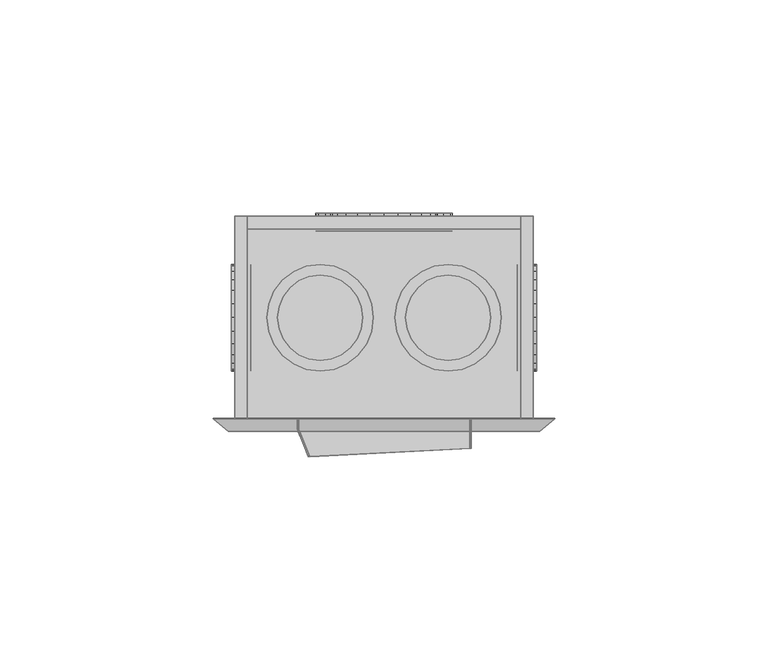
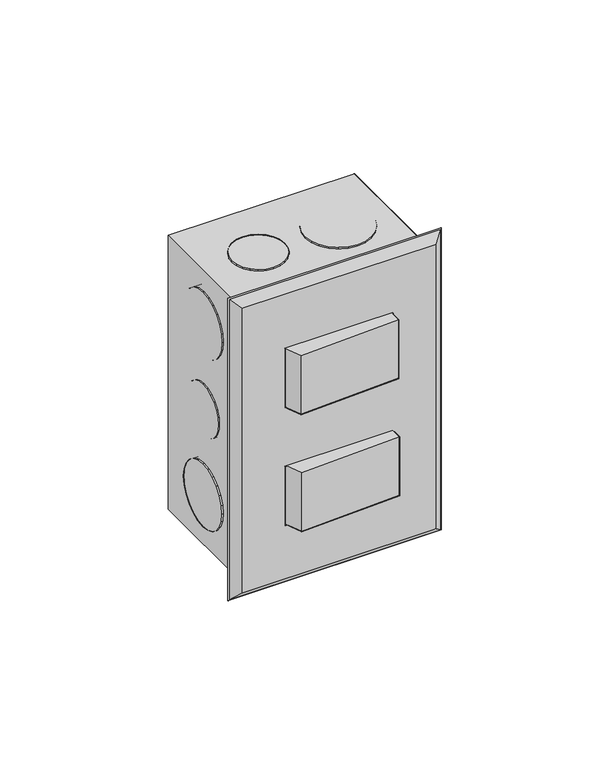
"""IFC4 building model written with IfcOpenShell, lengths in millimetres: proxy geometry,  210223 :  210223."""

from ifc_helpers import new_model, si_unit, origin, place, context, project, spatial, triangles, source, transform, mapped, element, save


def generic_models_682cc3b0(model_context):
    return source(origin(), model_context, "Body", "Tessellation", [
        triangles([(5506.4801697, 13148.2997681, 1254.3000378), (5503.4797714, 13148.2997681, 1148.7000154), (5506.4801697, 13148.2997681, 1145.6999805), (5503.4797714, 13148.2997681, 1251.2999302), (5436.4797913, 13148.2997681, 1254.3000378), (5439.4801895, 13148.2997681, 1251.2999302), (5436.4797913, 13148.2997681, 1145.6999805), (5439.4801895, 13148.2997681, 1148.7000154), (5503.4797714, 13195.8003571, 1251.2999302), (5503.4797714, 13195.8003571, 1148.7000154), (5436.4797913, 13195.8003571, 1254.3000378), (5436.4797913, 13195.8003571, 1145.6999805), (5439.4801895, 13195.8003571, 1251.2999302), (5506.4801697, 13195.8003571, 1145.6999805), (5439.4801895, 13195.8003571, 1148.7000154), (5506.4801697, 13195.8003571, 1254.3000378), (5503.4797714, 13192.8005402, 1251.2999302), (5439.4801895, 13192.8005402, 1148.7000154), (5503.4797714, 13192.8005402, 1148.7000154), (5439.4801895, 13192.8005402, 1251.2999302), (5479.4800735, 13196.5003143, 1186.0999855), (5485.3797134, 13196.5003143, 1191.9999887), (5482.7798721, 13196.5003143, 1188.6999722), (5475.6797241, 13196.5003143, 1184.5000105), (5486.9801971, 13196.5003143, 1195.8999687), (5471.4799805, 13196.5003143, 1183.9999683), (5487.4801666, 13196.5003143, 1200.0000092), (5467.3802307, 13196.5003143, 1184.5000105), (5486.9801971, 13196.5003143, 1204.0999769), (5463.4798874, 13196.5003143, 1186.0999855), (5485.3797134, 13196.5003143, 1208.0000296), (5460.1800888, 13196.5003143, 1188.6999722), (5482.7798721, 13196.5003143, 1211.2999735), (5457.6802414, 13196.5003143, 1191.9999887), (5479.4800735, 13196.5003143, 1213.9000328), (5456.0797577, 13196.5003143, 1195.8999687), (5475.6797241, 13196.5003143, 1215.5000078), (5455.4797943, 13196.5003143, 1200.0000092), (5471.4799805, 13196.5003143, 1215.9999773), (5456.0797577, 13196.5003143, 1204.0999769), (5467.3802307, 13196.5003143, 1215.5000078), (5457.6802414, 13196.5003143, 1208.0000296), (5463.4798874, 13196.5003143, 1213.9000328), (5460.1800888, 13196.5003143, 1211.2999735), (5475.6797241, 13192.3005707, 1215.5000078), (5471.4799805, 13192.3005707, 1215.9999773), (5479.4800735, 13192.3005707, 1213.9000328), (5482.7798721, 13192.3005707, 1211.2999735), (5485.3797134, 13192.3005707, 1208.0000296), (5486.9801971, 13192.3005707, 1204.0999769), (5487.4801666, 13192.3005707, 1200.0000092), (5486.9801971, 13192.3005707, 1195.8999687), (5485.3797134, 13192.3005707, 1191.9999887), (5482.7798721, 13192.3005707, 1188.6999722), (5479.4800735, 13192.3005707, 1186.0999855), (5475.6797241, 13192.3005707, 1184.5000105), (5471.4799805, 13192.3005707, 1183.9999683), (5467.3802307, 13192.3005707, 1184.5000105), (5463.4798874, 13192.3005707, 1186.0999855), (5460.1800888, 13192.3005707, 1188.6999722), (5457.6802414, 13192.3005707, 1191.9999887), (5456.0797577, 13192.3005707, 1195.8999687), (5455.4797943, 13192.3005707, 1200.0000092), (5456.0797577, 13192.3005707, 1204.0999769), (5457.6802414, 13192.3005707, 1208.0000296), (5460.1800888, 13192.3005707, 1211.2999735), (5463.4798874, 13192.3005707, 1213.9000328), (5467.3802307, 13192.3005707, 1215.5000078), (5482.3798965, 13192.3005707, 1227.8000565), (5477.7801773, 13192.3005707, 1223.2000465), (5480.3800186, 13192.3005707, 1225.2000698), (5483.5798233, 13192.3005707, 1230.8000187), (5474.7797791, 13192.3005707, 1221.8999805), (5483.9797989, 13192.3005707, 1233.9999687), (5471.4799805, 13192.3005707, 1221.500005), (5483.5798233, 13192.3005707, 1237.2000641), (5468.2801758, 13192.3005707, 1221.8999805), (5482.3798965, 13192.3005707, 1240.3000202), (5465.2797775, 13192.3005707, 1223.2000465), (5480.3800186, 13192.3005707, 1242.800013), (5462.6799362, 13192.3005707, 1225.2000698), (5460.6800583, 13192.3005707, 1227.8000565), (5477.7801773, 13192.3005707, 1244.8000362), (5474.7797791, 13192.3005707, 1246.0999569), (5459.4801315, 13192.3005707, 1230.8000187), (5471.4799805, 13192.3005707, 1246.4999325), (5458.980162, 13192.3005707, 1233.9999687), (5468.2801758, 13192.3005707, 1246.0999569), (5459.4801315, 13192.3005707, 1237.2000641), (5460.6800583, 13192.3005707, 1240.3000202), (5465.2797775, 13192.3005707, 1244.8000362), (5462.6799362, 13192.3005707, 1242.800013), (5459.4801315, 13196.5003143, 1230.8000187), (5460.6800583, 13196.5003143, 1227.8000565), (5462.6799362, 13196.5003143, 1225.2000698), (5465.2797775, 13196.5003143, 1223.2000465), (5468.2801758, 13196.5003143, 1221.8999805), (5471.4799805, 13196.5003143, 1221.500005), (5474.7797791, 13196.5003143, 1221.8999805), (5477.7801773, 13196.5003143, 1223.2000465), (5480.3800186, 13196.5003143, 1225.2000698), (5482.3798965, 13196.5003143, 1227.8000565), (5483.5798233, 13196.5003143, 1230.8000187), (5483.9797989, 13196.5003143, 1233.9999687), (5483.5798233, 13196.5003143, 1237.2000641), (5482.3798965, 13196.5003143, 1240.3000202), (5480.3800186, 13196.5003143, 1242.800013), (5477.7801773, 13196.5003143, 1244.8000362), (5474.7797791, 13196.5003143, 1246.0999569), (5471.4799805, 13196.5003143, 1246.4999325), (5468.2801758, 13196.5003143, 1246.0999569), (5465.2797775, 13196.5003143, 1244.8000362), (5462.6799362, 13196.5003143, 1242.800013), (5460.6800583, 13196.5003143, 1240.3000202), (5459.4801315, 13196.5003143, 1237.2000641), (5458.980162, 13196.5003143, 1233.9999687), (5477.7801773, 13196.5003143, 1155.1999821), (5482.3798965, 13196.5003143, 1159.6999981), (5480.3800186, 13196.5003143, 1157.2000053), (5474.7797791, 13196.5003143, 1153.8999887), (5483.5798233, 13196.5003143, 1162.8000269), (5471.4799805, 13196.5003143, 1153.5000132), (5483.9797989, 13196.5003143, 1165.9999769), (5468.2801758, 13196.5003143, 1153.8999887), (5483.5798233, 13196.5003143, 1169.1999996), (5465.2797775, 13196.5003143, 1155.1999821), (5482.3798965, 13196.5003143, 1172.2000345), (5462.6799362, 13196.5003143, 1157.2000053), (5480.3800186, 13196.5003143, 1174.8000212), (5460.6800583, 13196.5003143, 1159.6999981), (5477.7801773, 13196.5003143, 1176.7999718), (5459.4801315, 13196.5003143, 1162.8000269), (5474.7797791, 13196.5003143, 1178.0999651), (5471.4799805, 13196.5003143, 1178.5000134), (5458.980162, 13196.5003143, 1165.9999769), (5459.4801315, 13196.5003143, 1169.1999996), (5468.2801758, 13196.5003143, 1178.0999651), (5460.6800583, 13196.5003143, 1172.2000345), (5465.2797775, 13196.5003143, 1176.7999718), (5462.6799362, 13196.5003143, 1174.8000212), (5474.7797791, 13192.3005707, 1178.0999651), (5471.4799805, 13192.3005707, 1178.5000134), (5477.7801773, 13192.3005707, 1176.7999718), (5480.3800186, 13192.3005707, 1174.8000212), (5482.3798965, 13192.3005707, 1172.2000345), (5483.5798233, 13192.3005707, 1169.1999996), (5483.9797989, 13192.3005707, 1165.9999769), (5483.5798233, 13192.3005707, 1162.8000269), (5482.3798965, 13192.3005707, 1159.6999981), (5480.3800186, 13192.3005707, 1157.2000053), (5477.7801773, 13192.3005707, 1155.1999821), (5474.7797791, 13192.3005707, 1153.8999887), (5471.4799805, 13192.3005707, 1153.5000132), (5468.2801758, 13192.3005707, 1153.8999887), (5465.2797775, 13192.3005707, 1155.1999821), (5462.6799362, 13192.3005707, 1157.2000053), (5460.6800583, 13192.3005707, 1159.6999981), (5459.4801315, 13192.3005707, 1162.8000269), (5458.980162, 13192.3005707, 1165.9999769), (5459.4801315, 13192.3005707, 1169.1999996), (5460.6800583, 13192.3005707, 1172.2000345), (5462.6799362, 13192.3005707, 1174.8000212), (5465.2797775, 13192.3005707, 1176.7999718), (5468.2801758, 13192.3005707, 1178.0999651), (5507.2801208, 13180.700116, 1195.0000237), (5507.2801208, 13177.0003418, 1191.3000315), (5507.2801208, 13179.1002136, 1192.9000065), (5507.2801208, 13181.7000549, 1197.4000225), (5507.2801208, 13174.6004883, 1190.3000198), (5507.2801208, 13182.0000366, 1200.0000092), (5507.2801208, 13171.9994843, 1189.9999655), (5507.2801208, 13181.7000549, 1202.5999958), (5507.2801208, 13169.3996429, 1190.3000198), (5507.2801208, 13180.700116, 1204.9999947), (5507.2801208, 13166.9997894, 1191.3000315), (5507.2801208, 13179.1002136, 1207.1000118), (5507.2801208, 13164.8999176, 1192.9000065), (5507.2801208, 13177.0003418, 1208.6999868), (5507.2801208, 13163.3000153, 1195.0000237), (5507.2801208, 13174.6004883, 1209.6999985), (5507.2801208, 13162.3000763, 1197.4000225), (5507.2801208, 13162.0000946, 1200.0000092), (5507.2801208, 13171.9994843, 1209.9999802), (5507.2801208, 13169.3996429, 1209.6999985), (5507.2801208, 13162.3000763, 1202.5999958), (5507.2801208, 13166.9997894, 1208.6999868), (5507.2801208, 13163.3000153, 1204.9999947), (5507.2801208, 13164.8999176, 1207.1000118), (5502.6798203, 13174.6004883, 1209.6999985), (5502.6798203, 13171.9994843, 1209.9999802), (5502.6798203, 13169.3996429, 1209.6999985), (5502.6798203, 13166.9997894, 1208.6999868), (5502.6798203, 13164.8999176, 1207.1000118), (5502.6798203, 13163.3000153, 1204.9999947), (5502.6798203, 13162.3000763, 1202.5999958), (5502.6798203, 13162.0000946, 1200.0000092), (5502.6798203, 13162.3000763, 1197.4000225), (5502.6798203, 13163.3000153, 1195.0000237), (5502.6798203, 13164.8999176, 1192.9000065), (5502.6798203, 13166.9997894, 1191.3000315), (5502.6798203, 13169.3996429, 1190.3000198), (5502.6798203, 13171.9994843, 1189.9999655), (5502.6798203, 13174.6004883, 1190.3000198), (5502.6798203, 13177.0003418, 1191.3000315), (5502.6798203, 13179.1002136, 1192.9000065), (5502.6798203, 13180.700116, 1195.0000237), (5502.6798203, 13181.7000549, 1197.4000225), (5502.6798203, 13182.0000366, 1200.0000092), (5502.6798203, 13181.7000549, 1202.5999958), (5502.6798203, 13180.700116, 1204.9999947), (5502.6798203, 13179.1002136, 1207.1000118), (5502.6798203, 13177.0003418, 1208.6999868), (5502.6798203, 13178.3002625, 1223.2000465), (5502.6798203, 13182.7999878, 1227.8000565), (5502.6798203, 13180.8001099, 1225.2000698), (5502.6798203, 13175.2004517, 1221.8999805), (5502.6798203, 13184.0999084, 1230.8000187), (5502.6798203, 13184.499884, 1233.9999687), (5502.6798203, 13171.9994843, 1221.500005), (5502.6798203, 13168.7996796, 1221.8999805), (5502.6798203, 13184.0999084, 1237.2000641), (5502.6798203, 13182.7999878, 1240.3000202), (5502.6798203, 13165.7998627, 1223.2000465), (5502.6798203, 13163.2000214, 1225.2000698), (5502.6798203, 13180.8001099, 1242.800013), (5502.6798203, 13161.2001434, 1227.8000565), (5502.6798203, 13178.3002625, 1244.8000362), (5502.6798203, 13159.9002228, 1230.8000187), (5502.6798203, 13175.2004517, 1246.0999569), (5502.6798203, 13159.5002472, 1233.9999687), (5502.6798203, 13171.9994843, 1246.4999325), (5502.6798203, 13159.9002228, 1237.2000641), (5502.6798203, 13168.7996796, 1246.0999569), (5502.6798203, 13161.2001434, 1240.3000202), (5502.6798203, 13165.7998627, 1244.8000362), (5502.6798203, 13163.2000214, 1242.800013), (5507.2801208, 13171.9994843, 1221.500005), (5507.2801208, 13175.2004517, 1221.8999805), (5507.2801208, 13168.7996796, 1221.8999805), (5507.2801208, 13165.7998627, 1223.2000465), (5507.2801208, 13163.2000214, 1225.2000698), (5507.2801208, 13161.2001434, 1227.8000565), (5507.2801208, 13159.9002228, 1230.8000187), (5507.2801208, 13159.5002472, 1233.9999687), (5507.2801208, 13159.9002228, 1237.2000641), (5507.2801208, 13161.2001434, 1240.3000202), (5507.2801208, 13163.2000214, 1242.800013), (5507.2801208, 13165.7998627, 1244.8000362), (5507.2801208, 13168.7996796, 1246.0999569), (5507.2801208, 13171.9994843, 1246.4999325), (5507.2801208, 13175.2004517, 1246.0999569), (5507.2801208, 13178.3002625, 1244.8000362), (5507.2801208, 13180.8001099, 1242.800013), (5507.2801208, 13182.7999878, 1240.3000202), (5507.2801208, 13184.0999084, 1237.2000641), (5507.2801208, 13184.499884, 1233.9999687), (5507.2801208, 13184.0999084, 1230.8000187), (5507.2801208, 13182.7999878, 1227.8000565), (5507.2801208, 13180.8001099, 1225.2000698), (5507.2801208, 13178.3002625, 1223.2000465), (5507.2801208, 13182.7999878, 1159.6999981), (5507.2801208, 13178.3002625, 1155.1999821), (5507.2801208, 13180.8001099, 1157.2000053), (5507.2801208, 13184.0999084, 1162.8000269), (5507.2801208, 13175.2004517, 1153.8999887), (5507.2801208, 13184.499884, 1165.9999769), (5507.2801208, 13171.9994843, 1153.5000132), (5507.2801208, 13184.0999084, 1169.1999996), (5507.2801208, 13168.7996796, 1153.8999887), (5507.2801208, 13182.7999878, 1172.2000345), (5507.2801208, 13165.7998627, 1155.1999821), (5507.2801208, 13180.8001099, 1174.8000212), (5507.2801208, 13163.2000214, 1157.2000053), (5507.2801208, 13178.3002625, 1176.7999718), (5507.2801208, 13161.2001434, 1159.6999981), (5507.2801208, 13175.2004517, 1178.0999651), (5507.2801208, 13159.9002228, 1162.8000269), (5507.2801208, 13171.9994843, 1178.5000134), (5507.2801208, 13159.5002472, 1165.9999769), (5507.2801208, 13168.7996796, 1178.0999651), (5507.2801208, 13159.9002228, 1169.1999996), (5507.2801208, 13165.7998627, 1176.7999718), (5507.2801208, 13161.2001434, 1172.2000345), (5507.2801208, 13163.2000214, 1174.8000212), (5502.6798203, 13175.2004517, 1178.0999651), (5502.6798203, 13171.9994843, 1178.5000134), (5502.6798203, 13168.7996796, 1178.0999651), (5502.6798203, 13165.7998627, 1176.7999718), (5502.6798203, 13163.2000214, 1174.8000212), (5502.6798203, 13161.2001434, 1172.2000345), (5502.6798203, 13159.9002228, 1169.1999996), (5502.6798203, 13159.5002472, 1165.9999769), (5502.6798203, 13159.9002228, 1162.8000269), (5502.6798203, 13161.2001434, 1159.6999981), (5502.6798203, 13163.2000214, 1157.2000053), (5502.6798203, 13165.7998627, 1155.1999821), (5502.6798203, 13168.7996796, 1153.8999887), (5502.6798203, 13171.9994843, 1153.5000132), (5502.6798203, 13175.2004517, 1153.8999887), (5502.6798203, 13178.3002625, 1155.1999821), (5502.6798203, 13180.8001099, 1157.2000053), (5502.6798203, 13182.7999878, 1159.6999981), (5502.6798203, 13184.0999084, 1162.8000269), (5502.6798203, 13184.499884, 1165.9999769), (5502.6798203, 13184.0999084, 1169.1999996), (5502.6798203, 13182.7999878, 1172.2000345), (5502.6798203, 13180.8001099, 1174.8000212), (5502.6798203, 13178.3002625, 1176.7999718), (5435.6798401, 13177.0003418, 1191.3000315), (5435.6798401, 13180.700116, 1195.0000237), (5435.6798401, 13179.1002136, 1192.9000065), (5435.6798401, 13181.7000549, 1197.4000225), (5435.6798401, 13174.6004883, 1190.3000198), (5435.6798401, 13182.0000366, 1200.0000092), (5435.6798401, 13171.9994843, 1189.9999655), (5435.6798401, 13169.3996429, 1190.3000198), (5435.6798401, 13181.7000549, 1202.5999958), (5435.6798401, 13180.700116, 1204.9999947), (5435.6798401, 13166.9997894, 1191.3000315), (5435.6798401, 13179.1002136, 1207.1000118), (5435.6798401, 13164.8999176, 1192.9000065), (5435.6798401, 13163.3000153, 1195.0000237), (5435.6798401, 13177.0003418, 1208.6999868), (5435.6798401, 13162.3000763, 1197.4000225), (5435.6798401, 13174.6004883, 1209.6999985), (5435.6798401, 13162.0000946, 1200.0000092), (5435.6798401, 13171.9994843, 1209.9999802), (5435.6798401, 13162.3000763, 1202.5999958), (5435.6798401, 13169.3996429, 1209.6999985), (5435.6798401, 13166.9997894, 1208.6999868), (5435.6798401, 13163.3000153, 1204.9999947), (5435.6798401, 13164.8999176, 1207.1000118), (5440.2801407, 13174.6004883, 1190.3000198), (5440.2801407, 13177.0003418, 1191.3000315), (5440.2801407, 13171.9994843, 1189.9999655), (5440.2801407, 13169.3996429, 1190.3000198), (5440.2801407, 13166.9997894, 1191.3000315), (5440.2801407, 13164.8999176, 1192.9000065), (5440.2801407, 13163.3000153, 1195.0000237), (5440.2801407, 13162.3000763, 1197.4000225), (5440.2801407, 13162.0000946, 1200.0000092), (5440.2801407, 13162.3000763, 1202.5999958), (5440.2801407, 13163.3000153, 1204.9999947), (5440.2801407, 13164.8999176, 1207.1000118), (5440.2801407, 13166.9997894, 1208.6999868), (5440.2801407, 13169.3996429, 1209.6999985), (5440.2801407, 13171.9994843, 1209.9999802), (5440.2801407, 13174.6004883, 1209.6999985), (5440.2801407, 13177.0003418, 1208.6999868), (5440.2801407, 13179.1002136, 1207.1000118), (5440.2801407, 13180.700116, 1204.9999947), (5440.2801407, 13181.7000549, 1202.5999958), (5440.2801407, 13182.0000366, 1200.0000092), (5440.2801407, 13181.7000549, 1197.4000225), (5440.2801407, 13180.700116, 1195.0000237), (5440.2801407, 13179.1002136, 1192.9000065), (5440.2801407, 13182.7999878, 1159.6999981), (5440.2801407, 13178.3002625, 1155.1999821), (5440.2801407, 13180.8001099, 1157.2000053), (5440.2801407, 13184.0999084, 1162.8000269), (5440.2801407, 13175.2004517, 1153.8999887), (5440.2801407, 13184.499884, 1165.9999769), (5440.2801407, 13171.9994843, 1153.5000132), (5440.2801407, 13184.0999084, 1169.1999996), (5440.2801407, 13168.7996796, 1153.8999887), (5440.2801407, 13182.7999878, 1172.2000345), (5440.2801407, 13165.7998627, 1155.1999821), (5440.2801407, 13180.8001099, 1174.8000212), (5440.2801407, 13163.2000214, 1157.2000053), (5440.2801407, 13178.3002625, 1176.7999718), (5440.2801407, 13161.2001434, 1159.6999981), (5440.2801407, 13175.2004517, 1178.0999651), (5440.2801407, 13159.9002228, 1162.8000269), (5440.2801407, 13171.9994843, 1178.5000134), (5440.2801407, 13159.5002472, 1165.9999769), (5440.2801407, 13168.7996796, 1178.0999651), (5440.2801407, 13159.9002228, 1169.1999996), (5440.2801407, 13165.7998627, 1176.7999718), (5440.2801407, 13161.2001434, 1172.2000345), (5440.2801407, 13163.2000214, 1174.8000212), (5435.6798401, 13175.2004517, 1178.0999651), (5435.6798401, 13171.9994843, 1178.5000134), (5435.6798401, 13168.7996796, 1178.0999651), (5435.6798401, 13165.7998627, 1176.7999718), (5435.6798401, 13163.2000214, 1174.8000212), (5435.6798401, 13161.2001434, 1172.2000345), (5435.6798401, 13159.9002228, 1169.1999996), (5435.6798401, 13159.5002472, 1165.9999769), (5435.6798401, 13159.9002228, 1162.8000269), (5435.6798401, 13161.2001434, 1159.6999981), (5435.6798401, 13163.2000214, 1157.2000053), (5435.6798401, 13165.7998627, 1155.1999821), (5435.6798401, 13168.7996796, 1153.8999887), (5435.6798401, 13171.9994843, 1153.5000132), (5435.6798401, 13175.2004517, 1153.8999887), (5435.6798401, 13178.3002625, 1155.1999821), (5435.6798401, 13180.8001099, 1157.2000053), (5435.6798401, 13182.7999878, 1159.6999981), (5435.6798401, 13184.0999084, 1162.8000269), (5435.6798401, 13184.499884, 1165.9999769), (5435.6798401, 13184.0999084, 1169.1999996), (5435.6798401, 13182.7999878, 1172.2000345), (5435.6798401, 13180.8001099, 1174.8000212), (5435.6798401, 13178.3002625, 1176.7999718), (5435.6798401, 13178.3002625, 1223.2000465), (5435.6798401, 13182.7999878, 1227.8000565), (5435.6798401, 13180.8001099, 1225.2000698), (5435.6798401, 13175.2004517, 1221.8999805), (5435.6798401, 13184.0999084, 1230.8000187), (5435.6798401, 13184.499884, 1233.9999687), (5435.6798401, 13171.9994843, 1221.500005), (5435.6798401, 13168.7996796, 1221.8999805), (5435.6798401, 13184.0999084, 1237.2000641), (5435.6798401, 13182.7999878, 1240.3000202), (5435.6798401, 13165.7998627, 1223.2000465), (5435.6798401, 13163.2000214, 1225.2000698), (5435.6798401, 13180.8001099, 1242.800013), (5435.6798401, 13161.2001434, 1227.8000565), (5435.6798401, 13178.3002625, 1244.8000362), (5435.6798401, 13159.9002228, 1230.8000187), (5435.6798401, 13175.2004517, 1246.0999569), (5435.6798401, 13159.5002472, 1233.9999687), (5435.6798401, 13171.9994843, 1246.4999325), (5435.6798401, 13159.9002228, 1237.2000641), (5435.6798401, 13168.7996796, 1246.0999569), (5435.6798401, 13161.2001434, 1240.3000202), (5435.6798401, 13165.7998627, 1244.8000362), (5435.6798401, 13163.2000214, 1242.800013), (5440.2801407, 13171.9994843, 1221.500005), (5440.2801407, 13175.2004517, 1221.8999805), (5440.2801407, 13168.7996796, 1221.8999805), (5440.2801407, 13165.7998627, 1223.2000465), (5440.2801407, 13163.2000214, 1225.2000698), (5440.2801407, 13161.2001434, 1227.8000565), (5440.2801407, 13159.9002228, 1230.8000187), (5440.2801407, 13159.5002472, 1233.9999687), (5440.2801407, 13159.9002228, 1237.2000641), (5440.2801407, 13161.2001434, 1240.3000202), (5440.2801407, 13163.2000214, 1242.800013), (5440.2801407, 13165.7998627, 1244.8000362), (5440.2801407, 13168.7996796, 1246.0999569), (5440.2801407, 13171.9994843, 1246.4999325), (5440.2801407, 13175.2004517, 1246.0999569), (5440.2801407, 13178.3002625, 1244.8000362), (5440.2801407, 13180.8001099, 1242.800013), (5440.2801407, 13182.7999878, 1240.3000202), (5440.2801407, 13184.0999084, 1237.2000641), (5440.2801407, 13184.499884, 1233.9999687), (5440.2801407, 13184.0999084, 1230.8000187), (5440.2801407, 13182.7999878, 1227.8000565), (5440.2801407, 13180.8001099, 1225.2000698), (5440.2801407, 13178.3002625, 1223.2000465), (5492.7798431, 13182.7999878, 1255.1999828), (5497.3801437, 13178.3002625, 1255.1999828), (5495.3802658, 13180.8001099, 1255.1999828), (5498.5800705, 13175.2004517, 1255.1999828), (5489.7800262, 13184.0999084, 1255.1999828), (5486.4802277, 13184.499884, 1255.1999828), (5498.9800461, 13171.9994843, 1255.1999828), (5498.5800705, 13168.7996796, 1255.1999828), (5483.2798416, 13184.0999084, 1255.1999828), (5480.2800247, 13182.7999878, 1255.1999828), (5497.3801437, 13165.7998627, 1255.1999828), (5495.3802658, 13163.2000214, 1255.1999828), (5477.6801834, 13180.8001099, 1255.1999828), (5475.6797241, 13178.3002625, 1255.1999828), (5492.7798431, 13161.2001434, 1255.1999828), (5489.7800262, 13159.9002228, 1255.1999828), (5474.4797974, 13175.2004517, 1255.1999828), (5486.4802277, 13159.5002472, 1255.1999828), (5473.9798279, 13171.9994843, 1255.1999828), (5483.2798416, 13159.9002228, 1255.1999828), (5474.4797974, 13168.7996796, 1255.1999828), (5475.6797241, 13165.7998627, 1255.1999828), (5480.2800247, 13161.2001434, 1255.1999828), (5477.6801834, 13163.2000214, 1255.1999828), (5486.4802277, 13159.5002472, 1250.9999485), (5489.7800262, 13159.9002228, 1250.9999485), (5492.7798431, 13161.2001434, 1250.9999485), (5495.3802658, 13163.2000214, 1250.9999485), (5497.3801437, 13165.7998627, 1250.9999485), (5498.5800705, 13168.7996796, 1250.9999485), (5498.9800461, 13171.9994843, 1250.9999485), (5498.5800705, 13175.2004517, 1250.9999485), (5497.3801437, 13178.3002625, 1250.9999485), (5495.3802658, 13180.8001099, 1250.9999485), (5492.7798431, 13182.7999878, 1250.9999485), (5489.7800262, 13184.0999084, 1250.9999485), (5486.4802277, 13184.499884, 1250.9999485), (5483.2798416, 13184.0999084, 1250.9999485), (5480.2800247, 13182.7999878, 1250.9999485), (5477.6801834, 13180.8001099, 1250.9999485), (5475.6797241, 13178.3002625, 1250.9999485), (5474.4797974, 13175.2004517, 1250.9999485), (5473.9798279, 13171.9994843, 1250.9999485), (5474.4797974, 13168.7996796, 1250.9999485), (5475.6797241, 13165.7998627, 1250.9999485), (5477.6801834, 13163.2000214, 1250.9999485), (5480.2800247, 13161.2001434, 1250.9999485), (5483.2798416, 13159.9002228, 1250.9999485), (5465.1797836, 13177.0003418, 1250.9999485), (5461.4800095, 13180.700116, 1250.9999485), (5463.5798813, 13179.1002136, 1250.9999485), (5459.0801559, 13181.7000549, 1250.9999485), (5466.1797226, 13174.6004883, 1250.9999485), (5456.4797333, 13182.0000366, 1250.9999485), (5466.4802856, 13171.9994843, 1250.9999485), (5466.1797226, 13169.3996429, 1250.9999485), (5453.879892, 13181.7000549, 1250.9999485), (5451.4800385, 13180.700116, 1250.9999485), (5465.1797836, 13166.9997894, 1250.9999485), (5449.4801605, 13179.1002136, 1250.9999485), (5463.5798813, 13164.8999176, 1250.9999485), (5461.4800095, 13163.3000153, 1250.9999485), (5447.8802582, 13177.0003418, 1250.9999485), (5446.8797379, 13174.6004883, 1250.9999485), (5459.0801559, 13162.3000763, 1250.9999485), (5456.4797333, 13162.0000946, 1250.9999485), (5446.4797623, 13171.9994843, 1250.9999485), (5453.879892, 13162.3000763, 1250.9999485), (5446.8797379, 13169.3996429, 1250.9999485), (5451.4800385, 13163.3000153, 1250.9999485), (5447.8802582, 13166.9997894, 1250.9999485), (5449.4801605, 13164.8999176, 1250.9999485), (5453.879892, 13181.7000549, 1255.1999828), (5451.4800385, 13180.700116, 1255.1999828), (5456.4797333, 13182.0000366, 1255.1999828), (5459.0801559, 13181.7000549, 1255.1999828), (5461.4800095, 13180.700116, 1255.1999828), (5463.5798813, 13179.1002136, 1255.1999828), (5465.1797836, 13177.0003418, 1255.1999828), (5466.1797226, 13174.6004883, 1255.1999828), (5466.4802856, 13171.9994843, 1255.1999828), (5466.1797226, 13169.3996429, 1255.1999828), (5465.1797836, 13166.9997894, 1255.1999828), (5463.5798813, 13164.8999176, 1255.1999828), (5461.4800095, 13163.3000153, 1255.1999828), (5459.0801559, 13162.3000763, 1255.1999828), (5456.4797333, 13162.0000946, 1255.1999828), (5453.879892, 13162.3000763, 1255.1999828), (5451.4800385, 13163.3000153, 1255.1999828), (5449.4801605, 13164.8999176, 1255.1999828), (5447.8802582, 13166.9997894, 1255.1999828), (5446.8797379, 13169.3996429, 1255.1999828), (5446.4797623, 13171.9994843, 1255.1999828), (5446.8797379, 13174.6004883, 1255.1999828), (5447.8802582, 13177.0003418, 1255.1999828), (5449.4801605, 13179.1002136, 1255.1999828), (5495.180278, 13177.0003418, 1144.8000355), (5491.4799225, 13180.700116, 1144.8000355), (5493.5797943, 13179.1002136, 1144.8000355), (5489.080069, 13181.7000549, 1144.8000355), (5496.180217, 13174.6004883, 1144.8000355), (5486.4802277, 13182.0000366, 1144.8000355), (5496.4801987, 13171.9994843, 1144.8000355), (5496.180217, 13169.3996429, 1144.8000355), (5483.879805, 13181.7000549, 1144.8000355), (5481.4799515, 13180.700116, 1144.8000355), (5495.180278, 13166.9997894, 1144.8000355), (5479.4800735, 13179.1002136, 1144.8000355), (5493.5797943, 13164.8999176, 1144.8000355), (5491.4799225, 13163.3000153, 1144.8000355), (5477.8801712, 13177.0003418, 1144.8000355), (5476.8802322, 13174.6004883, 1144.8000355), (5489.080069, 13162.3000763, 1144.8000355), (5486.4802277, 13162.0000946, 1144.8000355), (5476.4802567, 13171.9994843, 1144.8000355), (5483.879805, 13162.3000763, 1144.8000355), (5476.8802322, 13169.3996429, 1144.8000355), (5481.4799515, 13163.3000153, 1144.8000355), (5477.8801712, 13166.9997894, 1144.8000355), (5479.4800735, 13164.8999176, 1144.8000355), (5489.080069, 13181.7000549, 1149.099991), (5486.4802277, 13182.0000366, 1149.099991), (5491.4799225, 13180.700116, 1149.099991), (5493.5797943, 13179.1002136, 1149.099991), (5495.180278, 13177.0003418, 1149.099991), (5496.180217, 13174.6004883, 1149.099991), (5496.4801987, 13171.9994843, 1149.099991), (5496.180217, 13169.3996429, 1149.099991), (5495.180278, 13166.9997894, 1149.099991), (5493.5797943, 13164.8999176, 1149.099991), (5491.4799225, 13163.3000153, 1149.099991), (5489.080069, 13162.3000763, 1149.099991), (5486.4802277, 13162.0000946, 1149.099991), (5483.879805, 13162.3000763, 1149.099991), (5481.4799515, 13163.3000153, 1149.099991), (5479.4800735, 13164.8999176, 1149.099991), (5477.8801712, 13166.9997894, 1149.099991), (5476.8802322, 13169.3996429, 1149.099991), (5476.4802567, 13171.9994843, 1149.099991), (5476.8802322, 13174.6004883, 1149.099991), (5477.8801712, 13177.0003418, 1149.099991), (5479.4800735, 13179.1002136, 1149.099991), (5481.4799515, 13180.700116, 1149.099991), (5483.879805, 13181.7000549, 1149.099991), (5467.3802307, 13178.3002625, 1144.8000355), (5462.7799301, 13182.7999878, 1144.8000355), (5465.3797714, 13180.8001099, 1144.8000355), (5468.5801575, 13175.2004517, 1144.8000355), (5459.7801132, 13184.0999084, 1144.8000355), (5456.4797333, 13184.499884, 1144.8000355), (5468.9801331, 13171.9994843, 1144.8000355), (5468.5801575, 13168.7996796, 1144.8000355), (5453.2799286, 13184.0999084, 1144.8000355), (5450.2801117, 13182.7999878, 1144.8000355), (5467.3802307, 13165.7998627, 1144.8000355), (5465.3797714, 13163.2000214, 1144.8000355), (5447.6802704, 13180.8001099, 1144.8000355), (5445.6798111, 13178.3002625, 1144.8000355), (5462.7799301, 13161.2001434, 1144.8000355), (5459.7801132, 13159.9002228, 1144.8000355), (5444.4798843, 13175.2004517, 1144.8000355), (5456.4797333, 13159.5002472, 1144.8000355), (5443.9799149, 13171.9994843, 1144.8000355), (5453.2799286, 13159.9002228, 1144.8000355), (5444.4798843, 13168.7996796, 1144.8000355), (5445.6798111, 13165.7998627, 1144.8000355), (5450.2801117, 13161.2001434, 1144.8000355), (5447.6802704, 13163.2000214, 1144.8000355), (5453.2799286, 13184.0999084, 1149.099991), (5450.2801117, 13182.7999878, 1149.099991), (5456.4797333, 13184.499884, 1149.099991), (5459.7801132, 13184.0999084, 1149.099991), (5462.7799301, 13182.7999878, 1149.099991), (5465.3797714, 13180.8001099, 1149.099991), (5467.3802307, 13178.3002625, 1149.099991), (5468.5801575, 13175.2004517, 1149.099991), (5468.9801331, 13171.9994843, 1149.099991), (5468.5801575, 13168.7996796, 1149.099991), (5467.3802307, 13165.7998627, 1149.099991), (5465.3797714, 13163.2000214, 1149.099991), (5462.7799301, 13161.2001434, 1149.099991), (5459.7801132, 13159.9002228, 1149.099991), (5456.4797333, 13159.5002472, 1149.099991), (5453.2799286, 13159.9002228, 1149.099991), (5450.2801117, 13161.2001434, 1149.099991), (5447.6802704, 13163.2000214, 1149.099991), (5445.6798111, 13165.7998627, 1149.099991), (5444.4798843, 13168.7996796, 1149.099991), (5443.9799149, 13171.9994843, 1149.099991), (5444.4798843, 13175.2004517, 1149.099991), (5445.6798111, 13178.3002625, 1149.099991), (5447.6802704, 13180.8001099, 1149.099991), (5431.4800964, 13148.2997681, 1139.9999651), (5491.6799103, 13148.2997681, 1164.5999897), (5511.4798645, 13148.2997681, 1139.9999651), (5451.2800507, 13148.2997681, 1164.5999897), (5431.4800964, 13148.2997681, 1259.9999805), (5451.2800507, 13148.2997681, 1188.0000149), (5451.2800507, 13148.2997681, 1211.3999674), (5451.2800507, 13148.2997681, 1234.8000652), (5511.4798645, 13148.2997681, 1259.9999805), (5491.6799103, 13148.2997681, 1188.0000149), (5491.6799103, 13148.2997681, 1211.3999674), (5491.6799103, 13148.2997681, 1234.8000652), (5491.6799103, 13145.2999512, 1188.0000149), (5451.2800507, 13145.2999512, 1188.0000149), (5491.6799103, 13145.2999512, 1234.8000652), (5451.2800507, 13145.2999512, 1234.8000652), (5451.2800507, 13145.2999512, 1164.5999897), (5451.2800507, 13145.2999512, 1211.3999674), (5491.6799103, 13145.2999512, 1164.5999897), (5491.6799103, 13145.2999512, 1211.3999674), (5507.9800781, 13145.2999512, 1143.4999695), (5507.9800781, 13145.2999512, 1256.5000488), (5434.9798828, 13145.2999512, 1143.4999695), (5434.9798828, 13145.2999512, 1256.5000488), (5491.5799164, 13141.3001953, 1211.2999735), (5451.1800568, 13148.2997681, 1211.2999735), (5491.5799164, 13148.2997681, 1211.2999735), (5453.7798981, 13139.4003113, 1211.2999735), (5451.1800568, 13145.7999207, 1211.2999735), (5491.5799164, 13148.2997681, 1234.7000713), (5451.1800568, 13148.2997681, 1234.7000713), (5491.5799164, 13141.3001953, 1234.7000713), (5453.7798981, 13139.4003113, 1234.7000713), (5451.1800568, 13145.7999207, 1234.7000713), (5491.8798981, 13141.3001953, 1164.6999836), (5451.4800385, 13148.2997681, 1164.6999836), (5491.8798981, 13148.2997681, 1164.6999836), (5454.0798798, 13139.4003113, 1164.6999836), (5451.4800385, 13145.7999207, 1164.6999836), (5491.8798981, 13148.2997681, 1188.1000088), (5451.4800385, 13148.2997681, 1188.1000088), (5491.8798981, 13141.3001953, 1188.1000088), (5454.0798798, 13139.4003113, 1188.1000088), (5451.4800385, 13145.7999207, 1188.1000088)], [[1, 2, 3], [2, 1, 4], [5, 4, 1], [4, 5, 6], [3, 2, 7], [7, 2, 8], [7, 8, 6], [7, 6, 5], [2, 9, 10], [9, 2, 4], [7, 11, 12], [11, 7, 5], [4, 13, 9], [13, 4, 6], [3, 12, 14], [12, 3, 7], [13, 8, 15], [8, 13, 6], [16, 3, 14], [3, 16, 1], [15, 2, 10], [2, 15, 8], [11, 1, 16], [1, 11, 5], [12, 10, 14], [10, 12, 15], [11, 15, 12], [15, 11, 13], [14, 10, 16], [16, 10, 9], [16, 9, 13], [16, 13, 11], [17, 18, 19], [18, 17, 20], [18, 13, 15], [13, 18, 20], [19, 15, 10], [15, 19, 18], [9, 19, 10], [19, 9, 17], [13, 17, 9], [17, 13, 20], [15, 9, 10], [9, 15, 13], [21, 22, 23], [22, 21, 24], [25, 22, 24], [25, 24, 26], [27, 25, 26], [27, 26, 28], [29, 27, 28], [29, 28, 30], [31, 29, 30], [31, 30, 32], [31, 32, 33], [33, 32, 34], [33, 34, 35], [35, 34, 36], [35, 36, 37], [37, 36, 38], [37, 38, 39], [39, 38, 40], [39, 40, 41], [41, 40, 42], [41, 42, 43], [43, 42, 44], [39, 45, 37], [45, 39, 46], [37, 47, 35], [47, 37, 45], [35, 48, 33], [48, 35, 47], [33, 49, 31], [49, 33, 48], [31, 50, 29], [50, 31, 49], [29, 51, 27], [51, 29, 50], [27, 52, 25], [52, 27, 51], [25, 53, 22], [53, 25, 52], [22, 54, 23], [54, 22, 53], [54, 21, 23], [21, 54, 55], [55, 24, 21], [24, 55, 56], [56, 26, 24], [26, 56, 57], [57, 28, 26], [28, 57, 58], [58, 30, 28], [30, 58, 59], [59, 32, 30], [32, 59, 60], [60, 34, 32], [34, 60, 61], [61, 36, 34], [36, 61, 62], [62, 38, 36], [38, 62, 63], [63, 40, 38], [40, 63, 64], [64, 42, 40], [42, 64, 65], [65, 44, 42], [44, 65, 66], [44, 67, 43], [67, 44, 66], [43, 68, 41], [68, 43, 67], [41, 46, 39], [46, 41, 68], [53, 55, 54], [55, 53, 52], [56, 55, 52], [56, 52, 51], [57, 56, 51], [57, 51, 50], [58, 57, 50], [58, 50, 49], [59, 58, 49], [59, 49, 48], [59, 48, 60], [60, 48, 47], [60, 47, 61], [61, 47, 45], [61, 45, 62], [62, 45, 46], [62, 46, 63], [63, 46, 68], [63, 68, 64], [64, 68, 67], [64, 67, 65], [65, 67, 66], [69, 70, 71], [70, 69, 72], [73, 70, 72], [73, 72, 74], [75, 73, 74], [75, 74, 76], [77, 75, 76], [77, 76, 78], [79, 77, 78], [79, 78, 80], [81, 79, 80], [81, 80, 82], [82, 80, 83], [82, 83, 84], [82, 84, 85], [85, 84, 86], [85, 86, 87], [87, 86, 88], [87, 88, 89], [89, 88, 90], [90, 88, 91], [90, 91, 92], [82, 93, 94], [93, 82, 85], [81, 94, 95], [94, 81, 82], [79, 95, 96], [95, 79, 81], [77, 96, 97], [96, 77, 79], [75, 97, 98], [97, 75, 77], [73, 98, 99], [98, 73, 75], [70, 99, 100], [99, 70, 73], [71, 100, 101], [100, 71, 70], [102, 71, 101], [71, 102, 69], [103, 69, 102], [69, 103, 72], [104, 72, 103], [72, 104, 74], [105, 74, 104], [74, 105, 76], [106, 76, 105], [76, 106, 78], [107, 78, 106], [78, 107, 80], [108, 80, 107], [80, 108, 83], [109, 83, 108], [83, 109, 84], [110, 84, 109], [84, 110, 86], [111, 86, 110], [86, 111, 88], [112, 88, 111], [88, 112, 91], [113, 91, 112], [91, 113, 92], [90, 113, 114], [113, 90, 92], [89, 114, 115], [114, 89, 90], [87, 115, 116], [115, 87, 89], [85, 116, 93], [116, 85, 87], [100, 102, 101], [102, 100, 99], [103, 102, 99], [103, 99, 98], [104, 103, 98], [104, 98, 97], [105, 104, 97], [106, 105, 97], [106, 97, 96], [106, 96, 95], [106, 95, 107], [107, 95, 94], [107, 94, 108], [108, 94, 93], [108, 93, 109], [109, 93, 116], [109, 116, 110], [110, 116, 115], [110, 115, 111], [111, 115, 114], [111, 114, 112], [112, 114, 113], [117, 118, 119], [118, 117, 120], [121, 118, 120], [121, 120, 122], [123, 121, 122], [123, 122, 124], [125, 123, 124], [125, 124, 126], [127, 125, 126], [127, 126, 128], [127, 128, 129], [129, 128, 130], [129, 130, 131], [131, 130, 132], [131, 132, 133], [133, 132, 134], [134, 132, 135], [134, 135, 136], [134, 136, 137], [137, 136, 138], [137, 138, 139], [139, 138, 140], [134, 141, 133], [141, 134, 142], [133, 143, 131], [143, 133, 141], [131, 144, 129], [144, 131, 143], [129, 145, 127], [145, 129, 144], [127, 146, 125], [146, 127, 145], [125, 147, 123], [147, 125, 146], [123, 148, 121], [148, 123, 147], [121, 149, 118], [149, 121, 148], [118, 150, 119], [150, 118, 149], [150, 117, 119], [117, 150, 151], [151, 120, 117], [120, 151, 152], [152, 122, 120], [122, 152, 153], [153, 124, 122], [124, 153, 154], [154, 126, 124], [126, 154, 155], [155, 128, 126], [128, 155, 156], [156, 130, 128], [130, 156, 157], [157, 132, 130], [132, 157, 158], [158, 135, 132], [135, 158, 159], [159, 136, 135], [136, 159, 160], [160, 138, 136], [138, 160, 161], [161, 140, 138], [140, 161, 162], [140, 163, 139], [163, 140, 162], [139, 164, 137], [164, 139, 163], [137, 142, 134], [142, 137, 164], [149, 151, 150], [151, 149, 148], [152, 151, 148], [153, 152, 148], [153, 148, 147], [153, 147, 146], [154, 153, 146], [154, 146, 145], [155, 154, 145], [155, 145, 144], [156, 155, 144], [156, 144, 157], [157, 144, 143], [157, 143, 141], [157, 141, 158], [158, 141, 142], [158, 142, 159], [159, 142, 164], [159, 164, 160], [160, 164, 163], [160, 163, 161], [161, 163, 162], [165, 166, 167], [166, 165, 168], [169, 166, 168], [169, 168, 170], [171, 169, 170], [171, 170, 172], [173, 171, 172], [173, 172, 174], [175, 173, 174], [175, 174, 176], [177, 175, 176], [177, 176, 178], [177, 178, 179], [179, 178, 180], [179, 180, 181], [181, 180, 182], [182, 180, 183], [182, 183, 184], [182, 184, 185], [185, 184, 186], [185, 186, 187], [187, 186, 188], [189, 183, 180], [183, 189, 190], [190, 184, 183], [184, 190, 191], [191, 186, 184], [186, 191, 192], [192, 188, 186], [188, 192, 193], [188, 194, 187], [194, 188, 193], [187, 195, 185], [195, 187, 194], [185, 196, 182], [196, 185, 195], [182, 197, 181], [197, 182, 196], [181, 198, 179], [198, 181, 197], [179, 199, 177], [199, 179, 198], [177, 200, 175], [200, 177, 199], [175, 201, 173], [201, 175, 200], [173, 202, 171], [202, 173, 201], [171, 203, 169], [203, 171, 202], [169, 204, 166], [204, 169, 203], [166, 205, 167], [205, 166, 204], [205, 165, 167], [165, 205, 206], [206, 168, 165], [168, 206, 207], [207, 170, 168], [170, 207, 208], [208, 172, 170], [172, 208, 209], [209, 174, 172], [174, 209, 210], [210, 176, 174], [176, 210, 211], [211, 178, 176], [178, 211, 212], [212, 180, 178], [180, 212, 189], [204, 206, 205], [207, 206, 204], [207, 204, 203], [208, 207, 203], [208, 203, 202], [208, 202, 201], [209, 208, 201], [210, 209, 201], [210, 201, 200], [211, 210, 200], [211, 200, 199], [211, 199, 198], [211, 198, 212], [212, 198, 197], [212, 197, 189], [189, 197, 196], [189, 196, 190], [190, 196, 195], [190, 195, 191], [191, 195, 192], [192, 195, 194], [192, 194, 193], [213, 214, 215], [214, 213, 216], [217, 214, 216], [218, 217, 216], [218, 216, 219], [218, 219, 220], [221, 218, 220], [222, 221, 220], [222, 220, 223], [222, 223, 224], [222, 224, 225], [225, 224, 226], [225, 226, 227], [227, 226, 228], [227, 228, 229], [229, 228, 230], [229, 230, 231], [231, 230, 232], [231, 232, 233], [233, 232, 234], [233, 234, 235], [235, 234, 236], [237, 216, 238], [216, 237, 219], [239, 219, 237], [219, 239, 220], [240, 220, 239], [220, 240, 223], [241, 223, 240], [223, 241, 224], [242, 224, 241], [224, 242, 226], [243, 226, 242], [226, 243, 228], [244, 228, 243], [228, 244, 230], [245, 230, 244], [230, 245, 232], [246, 232, 245], [232, 246, 234], [247, 234, 246], [234, 247, 236], [235, 247, 248], [247, 235, 236], [233, 248, 249], [248, 233, 235], [231, 249, 250], [249, 231, 233], [229, 250, 251], [250, 229, 231], [227, 251, 252], [251, 227, 229], [225, 252, 253], [252, 225, 227], [222, 253, 254], [253, 222, 225], [221, 254, 255], [254, 221, 222], [218, 255, 256], [255, 218, 221], [217, 256, 257], [256, 217, 218], [214, 257, 258], [257, 214, 217], [215, 258, 259], [258, 215, 214], [260, 215, 259], [215, 260, 213], [238, 213, 260], [213, 238, 216], [258, 260, 259], [260, 258, 257], [238, 260, 257], [238, 257, 256], [237, 238, 256], [237, 256, 255], [239, 237, 255], [239, 255, 254], [240, 239, 254], [240, 254, 253], [240, 253, 241], [241, 253, 252], [241, 252, 242], [242, 252, 251], [242, 251, 243], [243, 251, 244], [244, 251, 250], [244, 250, 249], [244, 249, 245], [245, 249, 246], [246, 249, 248], [246, 248, 247], [261, 262, 263], [262, 261, 264], [265, 262, 264], [265, 264, 266], [267, 265, 266], [267, 266, 268], [269, 267, 268], [269, 268, 270], [271, 269, 270], [271, 270, 272], [271, 272, 273], [273, 272, 274], [273, 274, 275], [275, 274, 276], [275, 276, 277], [277, 276, 278], [277, 278, 279], [279, 278, 280], [279, 280, 281], [281, 280, 282], [281, 282, 283], [283, 282, 284], [285, 278, 276], [278, 285, 286], [286, 280, 278], [280, 286, 287], [287, 282, 280], [282, 287, 288], [288, 284, 282], [284, 288, 289], [284, 290, 283], [290, 284, 289], [283, 291, 281], [291, 283, 290], [281, 292, 279], [292, 281, 291], [279, 293, 277], [293, 279, 292], [277, 294, 275], [294, 277, 293], [275, 295, 273], [295, 275, 294], [273, 296, 271], [296, 273, 295], [271, 297, 269], [297, 271, 296], [269, 298, 267], [298, 269, 297], [267, 299, 265], [299, 267, 298], [265, 300, 262], [300, 265, 299], [262, 301, 263], [301, 262, 300], [301, 261, 263], [261, 301, 302], [302, 264, 261], [264, 302, 303], [303, 266, 264], [266, 303, 304], [304, 268, 266], [268, 304, 305], [305, 270, 268], [270, 305, 306], [306, 272, 270], [272, 306, 307], [307, 274, 272], [274, 307, 308], [308, 276, 274], [276, 308, 285], [300, 302, 301], [302, 300, 299], [303, 302, 299], [303, 299, 298], [304, 303, 298], [304, 298, 297], [305, 304, 297], [305, 297, 296], [306, 305, 296], [306, 296, 295], [306, 295, 307], [307, 295, 294], [307, 294, 308], [308, 294, 293], [308, 293, 285], [285, 293, 286], [286, 293, 292], [286, 292, 291], [286, 291, 287], [287, 291, 288], [288, 291, 290], [288, 290, 289], [309, 310, 311], [312, 310, 309], [312, 309, 313], [314, 312, 313], [314, 313, 315], [314, 315, 316], [317, 314, 316], [318, 317, 316], [318, 316, 319], [320, 318, 319], [320, 319, 321], [320, 321, 322], [320, 322, 323], [323, 322, 324], [323, 324, 325], [325, 324, 326], [325, 326, 327], [327, 326, 328], [327, 328, 329], [329, 328, 330], [330, 328, 331], [330, 331, 332], [333, 309, 334], [309, 333, 313], [335, 313, 333], [313, 335, 315], [336, 315, 335], [315, 336, 316], [337, 316, 336], [316, 337, 319], [338, 319, 337], [319, 338, 321], [339, 321, 338], [321, 339, 322], [340, 322, 339], [322, 340, 324], [341, 324, 340], [324, 341, 326], [342, 326, 341], [326, 342, 328], [343, 328, 342], [328, 343, 331], [344, 331, 343], [331, 344, 332], [330, 344, 345], [344, 330, 332], [329, 345, 346], [345, 329, 330], [327, 346, 347], [346, 327, 329], [325, 347, 348], [347, 325, 327], [323, 348, 349], [348, 323, 325], [320, 349, 350], [349, 320, 323], [318, 350, 351], [350, 318, 320], [317, 351, 352], [351, 317, 318], [314, 352, 353], [352, 314, 317], [312, 353, 354], [353, 312, 314], [310, 354, 355], [354, 310, 312], [311, 355, 356], [355, 311, 310], [334, 311, 356], [311, 334, 309], [355, 334, 356], [334, 355, 354], [333, 334, 354], [333, 354, 353], [335, 333, 353], [335, 353, 352], [336, 335, 352], [336, 352, 351], [337, 336, 351], [337, 351, 350], [338, 337, 350], [338, 350, 349], [338, 349, 339], [339, 349, 348], [339, 348, 340], [340, 348, 341], [341, 348, 347], [341, 347, 346], [341, 346, 342], [342, 346, 345], [342, 345, 343], [343, 345, 344], [357, 358, 359], [358, 357, 360], [361, 358, 360], [361, 360, 362], [363, 361, 362], [363, 362, 364], [365, 363, 364], [365, 364, 366], [367, 365, 366], [367, 366, 368], [367, 368, 369], [369, 368, 370], [369, 370, 371], [371, 370, 372], [371, 372, 373], [373, 372, 374], [373, 374, 375], [375, 374, 376], [375, 376, 377], [377, 376, 378], [377, 378, 379], [379, 378, 380], [381, 374, 372], [374, 381, 382], [382, 376, 374], [376, 382, 383], [383, 378, 376], [378, 383, 384], [384, 380, 378], [380, 384, 385], [380, 386, 379], [386, 380, 385], [379, 387, 377], [387, 379, 386], [377, 388, 375], [388, 377, 387], [375, 389, 373], [389, 375, 388], [373, 390, 371], [390, 373, 389], [371, 391, 369], [391, 371, 390], [369, 392, 367], [392, 369, 391], [367, 393, 365], [393, 367, 392], [365, 394, 363], [394, 365, 393], [363, 395, 361], [395, 363, 394], [361, 396, 358], [396, 361, 395], [358, 397, 359], [397, 358, 396], [397, 357, 359], [357, 397, 398], [398, 360, 357], [360, 398, 399], [399, 362, 360], [362, 399, 400], [400, 364, 362], [364, 400, 401], [401, 366, 364], [366, 401, 402], [402, 368, 366], [368, 402, 403], [403, 370, 368], [370, 403, 404], [404, 372, 370], [372, 404, 381], [396, 398, 397], [398, 396, 395], [399, 398, 395], [399, 395, 394], [400, 399, 394], [400, 394, 393], [401, 400, 393], [401, 393, 392], [402, 401, 392], [402, 392, 391], [402, 391, 403], [403, 391, 390], [403, 390, 404], [404, 390, 389], [404, 389, 381], [381, 389, 382], [382, 389, 388], [382, 388, 387], [382, 387, 383], [383, 387, 384], [384, 387, 386], [384, 386, 385], [405, 406, 407], [406, 405, 408], [409, 406, 408], [410, 409, 408], [410, 408, 411], [410, 411, 412], [413, 410, 412], [414, 413, 412], [414, 412, 415], [414, 415, 416], [414, 416, 417], [417, 416, 418], [417, 418, 419], [419, 418, 420], [419, 420, 421], [421, 420, 422], [421, 422, 423], [423, 422, 424], [423, 424, 425], [425, 424, 426], [425, 426, 427], [427, 426, 428], [429, 408, 430], [408, 429, 411], [431, 411, 429], [411, 431, 412], [432, 412, 431], [412, 432, 415], [433, 415, 432], [415, 433, 416], [434, 416, 433], [416, 434, 418], [435, 418, 434], [418, 435, 420], [436, 420, 435], [420, 436, 422], [437, 422, 436], [422, 437, 424], [438, 424, 437], [424, 438, 426], [439, 426, 438], [426, 439, 428], [427, 439, 440], [439, 427, 428], [425, 440, 441], [440, 425, 427], [423, 441, 442], [441, 423, 425], [421, 442, 443], [442, 421, 423], [419, 443, 444], [443, 419, 421], [417, 444, 445], [444, 417, 419], [414, 445, 446], [445, 414, 417], [413, 446, 447], [446, 413, 414], [410, 447, 448], [447, 410, 413], [409, 448, 449], [448, 409, 410], [406, 449, 450], [449, 406, 409], [407, 450, 451], [450, 407, 406], [452, 407, 451], [407, 452, 405], [430, 405, 452], [405, 430, 408], [450, 452, 451], [452, 450, 449], [430, 452, 449], [430, 449, 448], [429, 430, 448], [429, 448, 447], [431, 429, 447], [431, 447, 446], [432, 431, 446], [432, 446, 445], [432, 445, 433], [433, 445, 444], [433, 444, 434], [434, 444, 443], [434, 443, 435], [435, 443, 436], [436, 443, 442], [436, 442, 441], [436, 441, 437], [437, 441, 438], [438, 441, 440], [438, 440, 439], [453, 454, 455], [456, 454, 453], [456, 453, 457], [456, 457, 458], [459, 456, 458], [460, 459, 458], [460, 458, 461], [460, 461, 462], [463, 460, 462], [464, 463, 462], [464, 462, 465], [464, 465, 466], [464, 466, 467], [467, 466, 468], [468, 466, 469], [468, 469, 470], [470, 469, 471], [470, 471, 472], [472, 471, 473], [472, 473, 474], [472, 474, 475], [475, 474, 476], [468, 477, 478], [477, 468, 470], [467, 478, 479], [478, 467, 468], [464, 479, 480], [479, 464, 467], [463, 480, 481], [480, 463, 464], [460, 481, 482], [481, 460, 463], [459, 482, 483], [482, 459, 460], [456, 483, 484], [483, 456, 459], [454, 484, 485], [484, 454, 456], [455, 485, 486], [485, 455, 454], [487, 455, 486], [455, 487, 453], [488, 453, 487], [453, 488, 457], [489, 457, 488], [457, 489, 458], [490, 458, 489], [458, 490, 461], [491, 461, 490], [461, 491, 462], [492, 462, 491], [462, 492, 465], [493, 465, 492], [465, 493, 466], [494, 466, 493], [466, 494, 469], [495, 469, 494], [469, 495, 471], [496, 471, 495], [471, 496, 473], [497, 473, 496], [473, 497, 474], [498, 474, 497], [474, 498, 476], [475, 498, 499], [498, 475, 476], [472, 499, 500], [499, 472, 475], [470, 500, 477], [500, 470, 472], [485, 487, 486], [487, 485, 484], [488, 487, 484], [489, 488, 484], [489, 484, 483], [489, 483, 482], [490, 489, 482], [491, 490, 482], [491, 482, 481], [491, 481, 480], [492, 491, 480], [492, 480, 493], [493, 480, 479], [493, 479, 478], [493, 478, 494], [494, 478, 477], [494, 477, 495], [495, 477, 500], [495, 500, 496], [496, 500, 497], [497, 500, 499], [497, 499, 498], [501, 502, 503], [504, 502, 501], [504, 501, 505], [506, 504, 505], [506, 505, 507], [506, 507, 508], [509, 506, 508], [510, 509, 508], [510, 508, 511], [512, 510, 511], [512, 511, 513], [512, 513, 514], [512, 514, 515], [515, 514, 516], [516, 514, 517], [516, 517, 518], [516, 518, 519], [519, 518, 520], [519, 520, 521], [521, 520, 522], [521, 522, 523], [523, 522, 524], [510, 525, 509], [525, 510, 526], [509, 527, 506], [527, 509, 525], [506, 528, 504], [528, 506, 527], [504, 529, 502], [529, 504, 528], [502, 530, 503], [530, 502, 529], [530, 501, 503], [501, 530, 531], [531, 505, 501], [505, 531, 532], [532, 507, 505], [507, 532, 533], [533, 508, 507], [508, 533, 534], [534, 511, 508], [511, 534, 535], [535, 513, 511], [513, 535, 536], [536, 514, 513], [514, 536, 537], [537, 517, 514], [517, 537, 538], [538, 518, 517], [518, 538, 539], [539, 520, 518], [520, 539, 540], [540, 522, 520], [522, 540, 541], [541, 524, 522], [524, 541, 542], [524, 543, 523], [543, 524, 542], [523, 544, 521], [544, 523, 543], [521, 545, 519], [545, 521, 544], [519, 546, 516], [546, 519, 545], [516, 547, 515], [547, 516, 546], [515, 548, 512], [548, 515, 547], [512, 526, 510], [526, 512, 548], [529, 531, 530], [531, 529, 528], [532, 531, 528], [532, 528, 527], [533, 532, 527], [534, 533, 527], [534, 527, 525], [534, 525, 526], [535, 534, 526], [535, 526, 548], [536, 535, 548], [536, 548, 537], [537, 548, 547], [537, 547, 546], [537, 546, 538], [538, 546, 539], [539, 546, 545], [539, 545, 540], [540, 545, 544], [540, 544, 541], [541, 544, 543], [541, 543, 542], [549, 550, 551], [552, 550, 549], [552, 549, 553], [554, 552, 553], [554, 553, 555], [554, 555, 556], [557, 554, 556], [558, 557, 556], [558, 556, 559], [560, 558, 559], [560, 559, 561], [560, 561, 562], [560, 562, 563], [563, 562, 564], [564, 562, 565], [564, 565, 566], [564, 566, 567], [567, 566, 568], [567, 568, 569], [569, 568, 570], [569, 570, 571], [571, 570, 572], [554, 573, 552], [573, 554, 574], [552, 575, 550], [575, 552, 573], [550, 576, 551], [576, 550, 575], [576, 549, 551], [549, 576, 577], [577, 553, 549], [553, 577, 578], [578, 555, 553], [555, 578, 579], [579, 556, 555], [556, 579, 580], [580, 559, 556], [559, 580, 581], [581, 561, 559], [561, 581, 582], [582, 562, 561], [562, 582, 583], [583, 565, 562], [565, 583, 584], [584, 566, 565], [566, 584, 585], [585, 568, 566], [568, 585, 586], [586, 570, 568], [570, 586, 587], [587, 572, 570], [572, 587, 588], [572, 589, 571], [589, 572, 588], [571, 590, 569], [590, 571, 589], [569, 591, 567], [591, 569, 590], [567, 592, 564], [592, 567, 591], [564, 593, 563], [593, 564, 592], [563, 594, 560], [594, 563, 593], [560, 595, 558], [595, 560, 594], [558, 596, 557], [596, 558, 595], [557, 574, 554], [574, 557, 596], [575, 577, 576], [577, 575, 573], [578, 577, 573], [578, 573, 574], [579, 578, 574], [580, 579, 574], [580, 574, 596], [580, 596, 595], [581, 580, 595], [581, 595, 594], [582, 581, 594], [582, 594, 583], [583, 594, 593], [583, 593, 592], [583, 592, 584], [584, 592, 585], [585, 592, 591], [585, 591, 586], [586, 591, 590], [586, 590, 587], [587, 590, 589], [587, 589, 588], [597, 598, 599], [598, 597, 600], [601, 598, 600], [602, 601, 600], [602, 600, 603], [602, 603, 604], [605, 602, 604], [606, 605, 604], [606, 604, 607], [606, 607, 608], [609, 606, 608], [609, 608, 610], [610, 608, 611], [610, 611, 612], [610, 612, 613], [613, 612, 614], [613, 614, 615], [615, 614, 616], [615, 616, 617], [617, 616, 618], [618, 616, 619], [618, 619, 620], [606, 621, 605], [621, 606, 622], [605, 623, 602], [623, 605, 621], [602, 624, 601], [624, 602, 623], [601, 625, 598], [625, 601, 624], [598, 626, 599], [626, 598, 625], [626, 597, 599], [597, 626, 627], [627, 600, 597], [600, 627, 628], [628, 603, 600], [603, 628, 629], [629, 604, 603], [604, 629, 630], [630, 607, 604], [607, 630, 631], [631, 608, 607], [608, 631, 632], [632, 611, 608], [611, 632, 633], [633, 612, 611], [612, 633, 634], [634, 614, 612], [614, 634, 635], [635, 616, 614], [616, 635, 636], [636, 619, 616], [619, 636, 637], [637, 620, 619], [620, 637, 638], [620, 639, 618], [639, 620, 638], [618, 640, 617], [640, 618, 639], [617, 641, 615], [641, 617, 640], [615, 642, 613], [642, 615, 641], [613, 643, 610], [643, 613, 642], [610, 644, 609], [644, 610, 643], [609, 622, 606], [622, 609, 644], [625, 627, 626], [628, 627, 625], [628, 625, 624], [628, 624, 623], [629, 628, 623], [630, 629, 623], [630, 623, 621], [630, 621, 622], [631, 630, 622], [632, 631, 622], [632, 622, 644], [632, 644, 643], [632, 643, 633], [633, 643, 634], [634, 643, 642], [634, 642, 635], [635, 642, 641], [635, 641, 636], [636, 641, 640], [636, 640, 639], [636, 639, 637], [637, 639, 638], [645, 646, 647], [646, 645, 648], [649, 648, 645], [648, 649, 650], [650, 649, 651], [651, 649, 652], [647, 646, 653], [653, 646, 654], [653, 654, 655], [653, 655, 656], [653, 656, 652], [653, 652, 649], [650, 655, 654], [655, 650, 651], [657, 650, 654], [650, 657, 658], [659, 652, 656], [652, 659, 660], [650, 661, 648], [661, 650, 658], [652, 662, 651], [662, 652, 660], [648, 663, 646], [663, 648, 661], [651, 664, 655], [664, 651, 662], [663, 654, 646], [654, 663, 657], [664, 656, 655], [656, 664, 659], [653, 665, 647], [665, 653, 666], [647, 665, 645], [645, 665, 667], [668, 645, 667], [645, 668, 649], [653, 668, 666], [649, 668, 653], [664, 658, 657], [658, 664, 662], [666, 663, 665], [663, 666, 657], [657, 666, 664], [664, 666, 659], [660, 659, 666], [668, 660, 666], [665, 663, 667], [667, 663, 661], [667, 661, 668], [668, 661, 658], [668, 658, 662], [668, 662, 660], [669, 670, 671], [670, 669, 672], [670, 672, 673], [670, 674, 671], [674, 670, 675], [674, 669, 671], [669, 674, 676], [676, 672, 669], [672, 676, 677], [672, 678, 673], [678, 672, 677], [673, 675, 670], [675, 673, 678], [675, 676, 674], [676, 675, 677], [677, 675, 678], [679, 680, 681], [680, 679, 682], [680, 682, 683], [680, 684, 681], [684, 680, 685], [684, 679, 681], [679, 684, 686], [686, 682, 679], [682, 686, 687], [682, 688, 683], [688, 682, 687], [683, 685, 680], [685, 683, 688], [685, 686, 684], [686, 685, 687], [687, 685, 688]], closed=False),
    ])


if __name__ == "__main__":
    model = new_model("IFC4")
    model_context = context("Model", 3, world=origin())
    ifc_project = project(units=[si_unit("LENGTHUNIT", "METRE", prefix="MILLI")], contexts=[model_context])
    site = spatial("IfcSite", under=ifc_project)
    building = spatial("IfcBuilding", under=site)
    placement = place(None, origin())
    generic_models_shape = generic_models_682cc3b0(model_context)
    element("IfcBuildingElementProxy", 1, Name=" 210223 :  210223", ObjectType=" 210223 :  210223", at=placement, inside=building, context=model_context, shape_type="MappedRepresentation", body=[
        mapped(generic_models_shape, transform((0.0, 0.0, 0.0), x_axis=(1.0, 0.0, 0.0), y_axis=(0.0, 1.0, 0.0), z_axis=(0.0, 0.0, 1.0))),
    ])
    save(model, "model.ifc")
